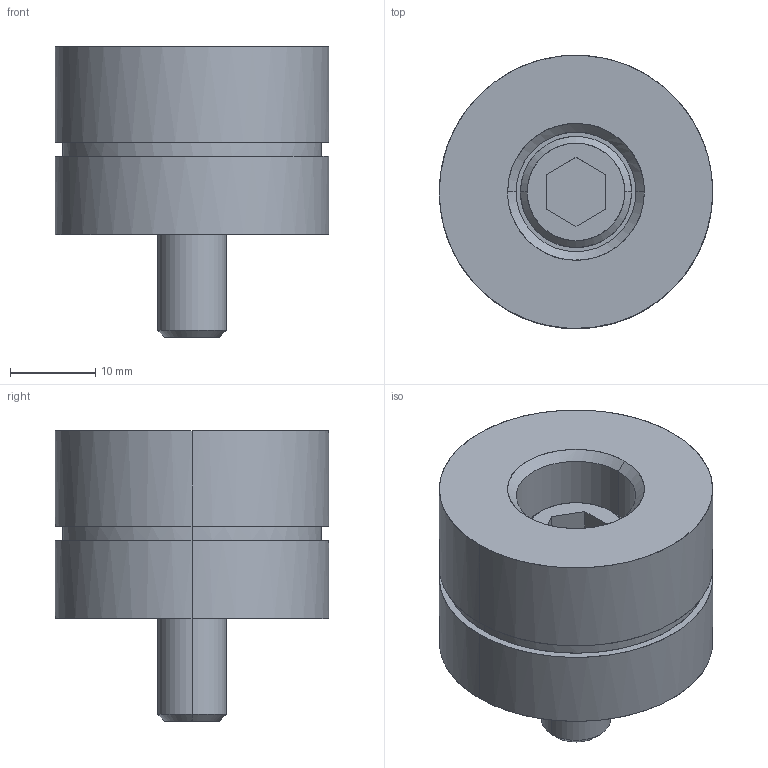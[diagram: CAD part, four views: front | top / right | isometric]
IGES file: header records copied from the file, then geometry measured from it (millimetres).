
Global section: file name: E:\UnigraphicsGraphicData\MISUMI_PRESS-PARTS\IGES\3d_sbn32-22-n_00581_r00.igs; native system: NX V5.0; preprocessor: UGS NX IGES V5.0; author: MISUMI; date: 20110105.162427; units: millimetre
Bounding box: 32 x 32 x 34 mm (x, y, z)
Surface area: 5827.7 mm2 (no closed solid volume)
Topology: 0 solids, 0 shells, 35 faces, 276 edges, 276 vertices
Faces by surface type: bspline 35
